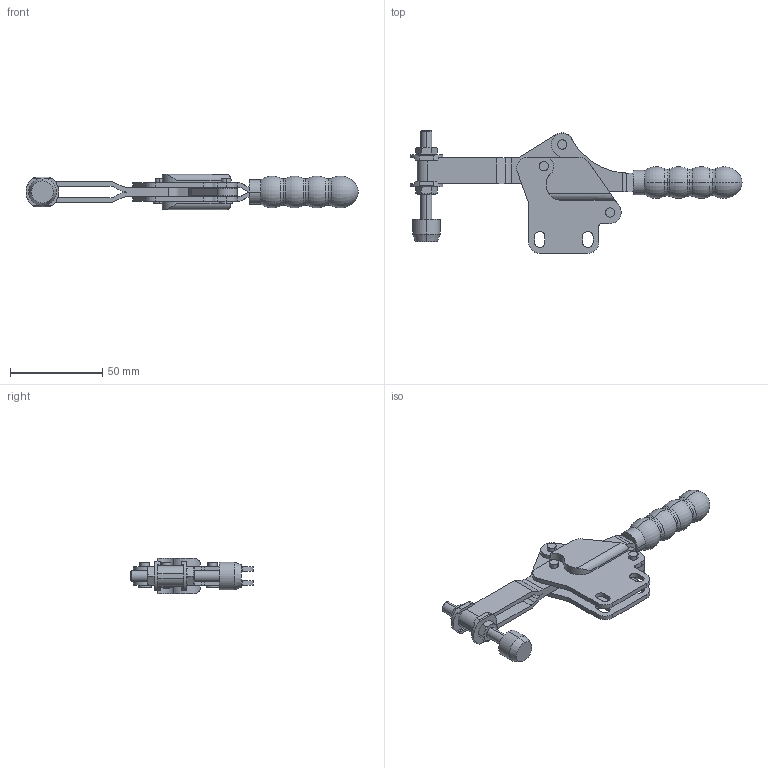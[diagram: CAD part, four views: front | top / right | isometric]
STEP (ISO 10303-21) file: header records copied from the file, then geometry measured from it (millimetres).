
FILE_DESCRIPTION( ( '' ), '1' );
FILE_NAME( '//partserver002.servicenet/client_exchange/iodir/jobs/output/wkb5782488_no0/STEP/h150_1b_2_03.stp', '2006-11-29T10:27:01', ( '' ), ( '' ), ' ', ' ', ' ' );
FILE_SCHEMA( ( 'CONFIG_CONTROL_DESIGN' ) );
Length unit declared in the file: millimetre
Products named in the file (8): 1; 2; 3; 4; 5; 6; 7; 8
Bounding box: 179.77 x 66.6 x 19 mm (x, y, z)
Volume: 39324 mm3; surface area: 27123 mm2
Topology: 8 solids, 8 shells, 287 faces, 735 edges, 477 vertices
Faces by surface type: cylinder 117, plane 112, cone 36, torus 20, sphere 2
Entity records: 9319 total; most frequent: CARTESIAN_POINT 1835, DIRECTION 1571, ORIENTED_EDGE 1470, EDGE_CURVE 735, AXIS2_PLACEMENT_3D 613, VERTEX_POINT 477, LINE 345, VECTOR 345
